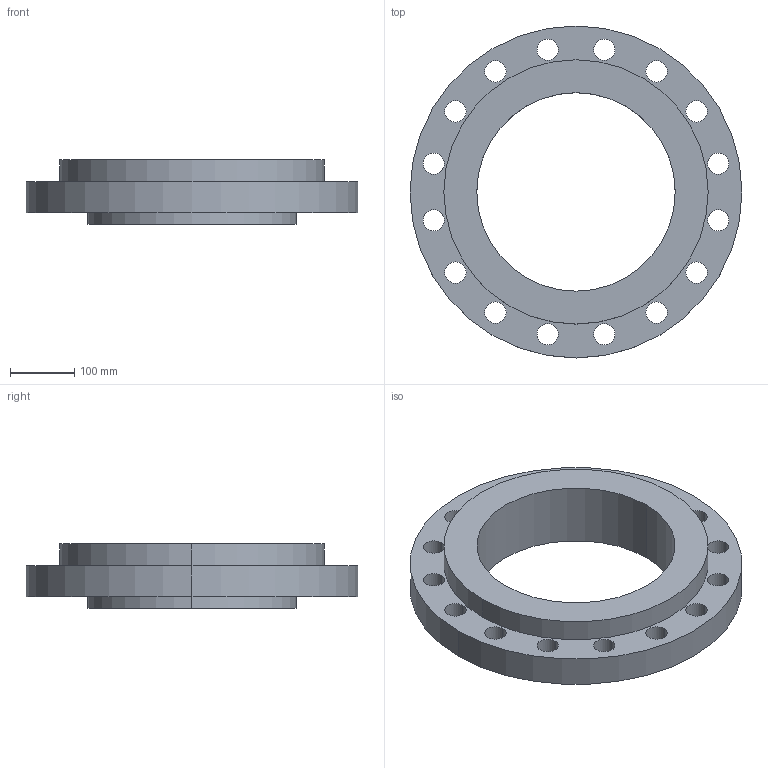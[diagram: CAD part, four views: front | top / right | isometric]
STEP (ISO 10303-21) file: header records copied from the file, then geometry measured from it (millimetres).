
FILE_DESCRIPTION (( 'STEP AP214' ), '1' );
FILE_NAME ('PN40 DN300 Type 04 in 34 - (Type A Face).STEP', '2019-01-05T20:28:53', ( '' ), ( '' ), 'SwSTEP 2.0', 'SolidWorks 2019', '' );
FILE_SCHEMA (( 'AUTOMOTIVE_DESIGN' ));
Length unit declared in the file: millimetre
Products named in the file (1): PN40 DN300 Type 04 in 34 - (Type A Face)
Bounding box: 515 x 515 x 100 mm (x, y, z)
Volume: 6900628.5 mm3; surface area: 694876.2 mm2
Topology: 2 solids, 2 shells, 53 faces, 138 edges, 90 vertices
Faces by surface type: cylinder 42, cone 6, plane 5
Entity records: 1789 total; most frequent: DIRECTION 336, CARTESIAN_POINT 282, ORIENTED_EDGE 276, AXIS2_PLACEMENT_3D 144, EDGE_CURVE 138, CIRCLE 90, VERTEX_POINT 90, EDGE_LOOP 90
